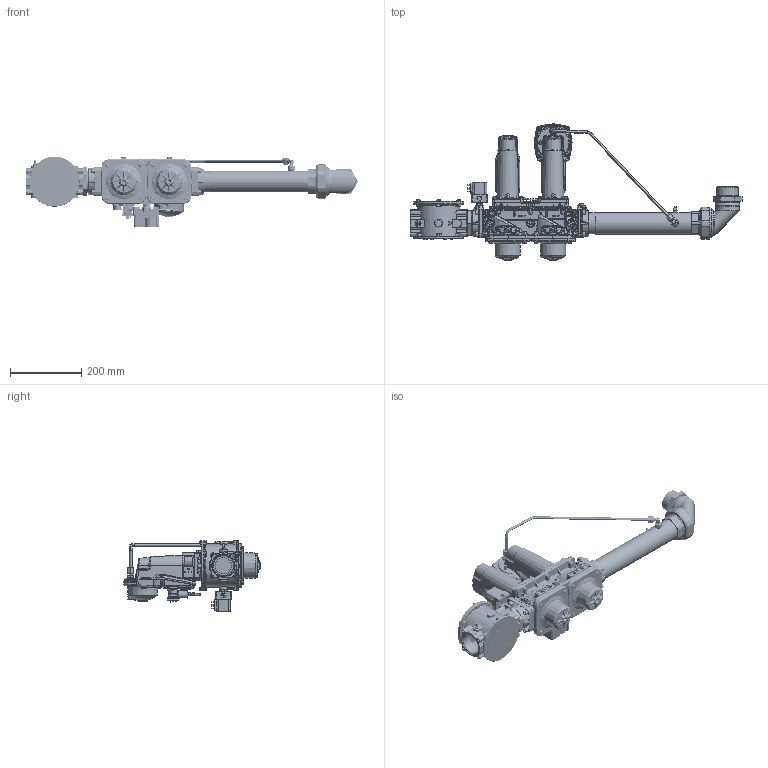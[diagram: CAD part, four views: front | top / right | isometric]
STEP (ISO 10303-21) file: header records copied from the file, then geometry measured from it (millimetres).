
FILE_DESCRIPTION (( 'STEP AP214' ), '1' );
FILE_NAME ('19990584.STEP', '2024-06-04T13:49:20', ( '' ), ( '' ), 'SwSTEP 2.0', 'SolidWorks 2021', '' );
FILE_SCHEMA (( 'AUTOMOTIVE_DESIGN' ));
Length unit declared in the file: millimetre
Products named in the file (24): 19990584; 0005040068-101251; 3793-01437; 0005150151-100568; 0005090234-149588; 0006020262-103298; 30282-102826; 31483-01527; 0005090234-149591-AUTO; 0005180006-102398; 0005090234-149589-AUTO; 0005090188-110631; 0005090234-149590-AUTO; 0006020657-132475; 0005090195-110634; 0005100118-109191; 18681-103294; 0010010014-103296; 0010010014-103297-AUTO; 4987-01486; 0005090231-01440; 23867-176083; 0010060030-01485; 0005090232-01439
Assembly tree (26 placements, depth 3):
  19990584
    30282-102826  x2
    18681-103294
    0010010014-103296
      0010010014-103297-AUTO
      3793-01437
    0005090188-110631
    0005090232-01439
    0005090231-01440
    23867-176083
    0006020262-103298
    0010060030-01485
    4987-01486
    0005040068-101251  x2
    0005150151-100568
    0005090195-110634  x2
    31483-01527
    0006020657-132475
    0005100118-109191
    0005180006-102398
    0005090234-149588
      0005090234-149590-AUTO
      0005090234-149589-AUTO
      0005090234-149591-AUTO
Bounding box: 930.2 x 381.8 x 197.9 mm (x, y, z)
Volume: 6812991 mm3; surface area: 1030930.1 mm2
Topology: 51 solids, 73 shells, 10469 faces, 24901 edges, 14617 vertices
Faces by surface type: bspline 4183, plane 2712, cylinder 2676, cone 530, torus 291, sphere 77
Full cylindrical faces by diameter (mm): 1 x1, 1.5 x2, 2 x4, 3 x2, 3.1 x1, 3.4 x1, 4 x4, 4.2 x16, 4.3 x4, 4.35 x6, 4.351 x2, 4.5 x2, 4.8 x2, 5 x17, 5.4 x1, 5.5 x6, 5.9 x1, 6 x7, 6.2 x2, 6.5 x10, 7 x1, 7.76 x24, 8 x23, 8.4 x8, 8.5 x1, 8.55 x1, 8.6 x1, 8.8 x1, 9 x28, 9.5 x7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
Entity records: 453128 total; most frequent: CARTESIAN_POINT 268839, ORIENTED_EDGE 42502, DIRECTION 29526, EDGE_CURVE 21251, VERTEX_POINT 12951, AXIS2_PLACEMENT_3D 11379, EDGE_LOOP 10772, FACE_OUTER_BOUND 10073
